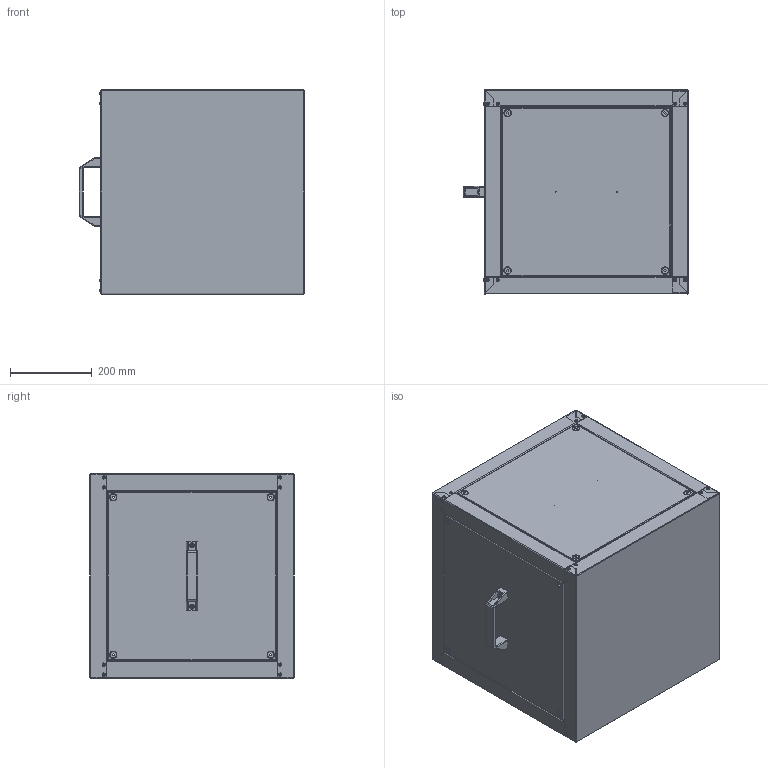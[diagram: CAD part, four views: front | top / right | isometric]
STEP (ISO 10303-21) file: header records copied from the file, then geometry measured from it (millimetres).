
FILE_DESCRIPTION (( 'STEP AP203' ), '1' );
FILE_NAME ('137881-02_MPC225E221+.STEP', '2017-10-09T12:43:17', ( '' ), ( '' ), 'SwSTEP 2.0', 'SolidWorks 2012', '' );
FILE_SCHEMA (( 'CONFIG_CONTROL_DESIGN' ));
Length unit declared in the file: millimetre
Products named in the file (1): 137881-02_MPC225E221+
Bounding box: 553.3 x 500 x 502.6 mm (x, y, z)
Surface area: 3314899.8 mm2 (no closed solid volume)
Topology: 0 solids, 127 shells, 806 faces, 3192 edges, 2431 vertices
Faces by surface type: cylinder 366, plane 274, torus 144, bspline 12, cone 10
Entity records: 35217 total; most frequent: CARTESIAN_POINT 8799, DIRECTION 5829, ORIENTED_EDGE 4278, EDGE_CURVE 3192, VERTEX_POINT 2431, AXIS2_PLACEMENT_3D 2161, LINE 1507, VECTOR 1507
